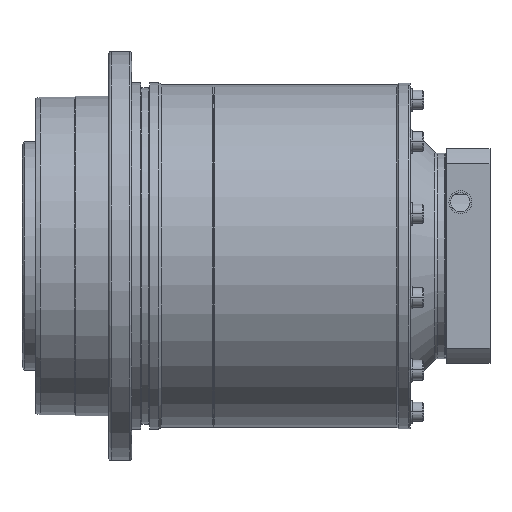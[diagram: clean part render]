
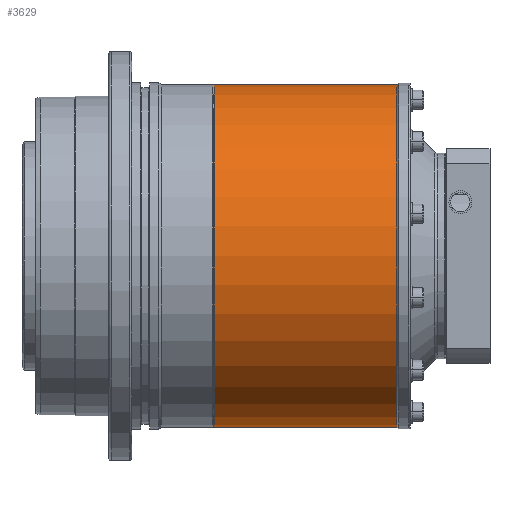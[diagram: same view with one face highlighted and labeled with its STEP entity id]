
A CAD part, top view. The second image highlights one B-rep face of the part: STEP entity #3629.
In plain terms, the highlighted cylindrical face has radius 75 mm (diameter 150 mm), a partial arc.
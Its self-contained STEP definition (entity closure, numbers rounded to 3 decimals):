
#1296=CARTESIAN_POINT('',(-80.25,0.,0.));
#1297=DIRECTION('',(1.,0.,0.));
#1298=DIRECTION('',(0.,-1.,0.));
#1299=AXIS2_PLACEMENT_3D('',#1296,#1297,#1298);
#1309=CARTESIAN_POINT('',(-0.3,0.,0.));
#1310=DIRECTION('',(-1.,0.,0.));
#1311=DIRECTION('',(0.,1.,0.));
#1312=AXIS2_PLACEMENT_3D('',#1309,#1310,#1311);
#1314=DIRECTION('',(-1.,0.,0.));
#1315=VECTOR('',#1314,79.95);
#1316=CARTESIAN_POINT('',(-0.3,75.,
0.));
#1317=LINE('',#1316,#1315);
#1318=DIRECTION('',(-1.,0.,0.));
#1319=VECTOR('',#1318,79.95);
#1320=CARTESIAN_POINT('',(-0.3,-75.,
0.));
#1321=LINE('',#1320,#1319);
#1421=CARTESIAN_POINT('',(-80.25,75.,0.));
#1422=CARTESIAN_POINT('',(-80.25,-75.,0.));
#1423=VERTEX_POINT('',#1421);
#1424=VERTEX_POINT('',#1422);
#1459=CARTESIAN_POINT('',(-0.3,-75.,0.));
#1460=CARTESIAN_POINT('',(-0.3,75.,0.));
#1461=VERTEX_POINT('',#1459);
#1462=VERTEX_POINT('',#1460);
#3615=CARTESIAN_POINT('',(-106.575,0.,0.));
#3616=DIRECTION('',(1.,0.,0.));
#3617=DIRECTION('',(0.,-1.,0.));
#3618=AXIS2_PLACEMENT_3D('',#3615,#3616,#3617);
#3619=CYLINDRICAL_SURFACE('',#3618,75.);
#3621=ORIENTED_EDGE('',*,*,#3620,.F.);
#3623=ORIENTED_EDGE('',*,*,#3622,.T.);
#3624=ORIENTED_EDGE('',*,*,#3605,.F.);
#3626=ORIENTED_EDGE('',*,*,#3625,.F.);
#3627=EDGE_LOOP('',(#3621,#3623,#3624,#3626));
#3628=FACE_OUTER_BOUND('',#3627,.F.);
#3629=ADVANCED_FACE('',(#3628),#3619,.T.);
#1300=CIRCLE('',#1299,75.);
#1313=CIRCLE('',#1312,75.);
#3605=EDGE_CURVE('',#1424,#1423,#1300,.T.);
#3620=EDGE_CURVE('',#1462,#1461,#1313,.T.);
#3622=EDGE_CURVE('',#1462,#1423,#1317,.T.);
#3625=EDGE_CURVE('',#1461,#1424,#1321,.T.);
